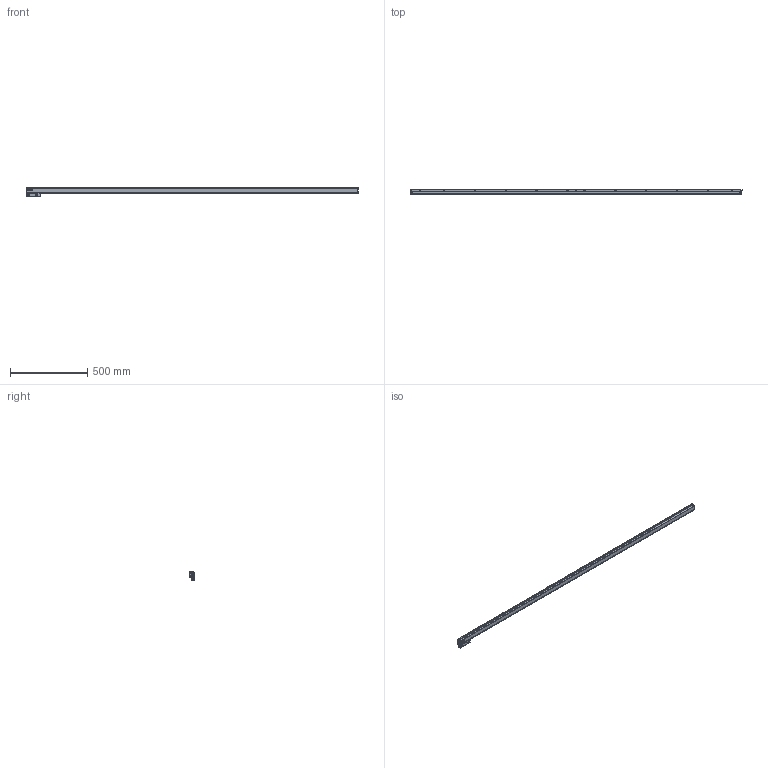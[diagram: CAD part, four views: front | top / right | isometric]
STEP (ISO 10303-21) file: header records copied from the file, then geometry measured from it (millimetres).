
FILE_DESCRIPTION(('Creo Elements/Direct Modeling STEP Export'),'2;1');
FILE_NAME('Regla SV2-2040-T-V01A.stp','2022-11-30T10:05:38',(''),(''),'Creo Elements/Direct Modeling STEP processor for AP214 (Solid Model)','Creo Elements/Direct Modeling 20.4A 18-Oct-2021 (C) Parametric Technology GmbH','');
FILE_SCHEMA(('AUTOMOTIVE_DESIGN { 1 0 10303 214 1 1 1 1 }'));
Products named in the file (4): SOPORTE_SV3-2040; REGLA_SV2-2040-T; CABEZA_ROSCADA_REGLA_SV2-T; REGLA_SV2-2040-T-V01A
Assembly tree (3 placements, depth 2):
  REGLA_SV2-2040-T-V01A
    CABEZA_ROSCADA_REGLA_SV2-T
    REGLA_SV2-2040-T
    SOPORTE_SV3-2040
Bounding box: 2145 x 28 x 56.2 mm (x, y, z)
Volume: 1655229 mm3; surface area: 596993.9 mm2
Topology: 3 solids, 24 shells, 3359 faces, 9739 edges, 6414 vertices
Faces by surface type: plane 1754, cylinder 1146, cone 288, bspline 114, torus 50, sphere 4, extrusion 3
Entity records: 126697 total; most frequent: CARTESIAN_POINT 29945, ORIENTED_EDGE 19434, DIRECTION 16409, EDGE_CURVE 9717, VERTEX_POINT 6414, AXIS2_PLACEMENT_3D 5502, VECTOR 5405, LINE 5402
